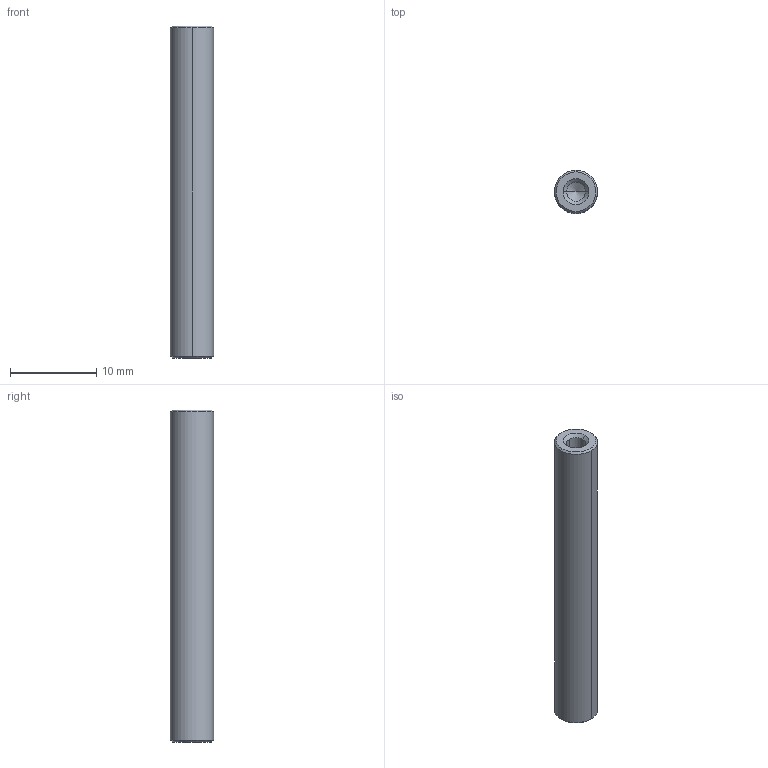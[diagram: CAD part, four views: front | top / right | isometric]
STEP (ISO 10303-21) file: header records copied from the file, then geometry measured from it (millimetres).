
FILE_DESCRIPTION (( 'STEP AP214' ), '1' );
FILE_NAME ('RS60x_Shaft.STEP', '2008-08-07T03:12:58', ( 'cada3' ), ( '双葉電子工業（株）' ), 'SwSTEP 2.0', 'SolidWorks 2008', '' );
FILE_SCHEMA (( 'AUTOMOTIVE_DESIGN' ));
Length unit declared in the file: millimetre
Products named in the file (1): RS60x_Shaft
Bounding box: 5 x 5 x 38.5 mm (x, y, z)
Volume: 653.7 mm3; surface area: 818.3 mm2
Topology: 1 solids, 1 shells, 20 faces, 54 edges, 34 vertices
Faces by surface type: cone 12, cylinder 6, plane 2
Entity records: 865 total; most frequent: DIRECTION 124, CARTESIAN_POINT 105, ORIENTED_EDGE 100, AXIS2_PLACEMENT_3D 53, EDGE_CURVE 50, VERTEX_POINT 34, CIRCLE 32, EDGE_LOOP 22
